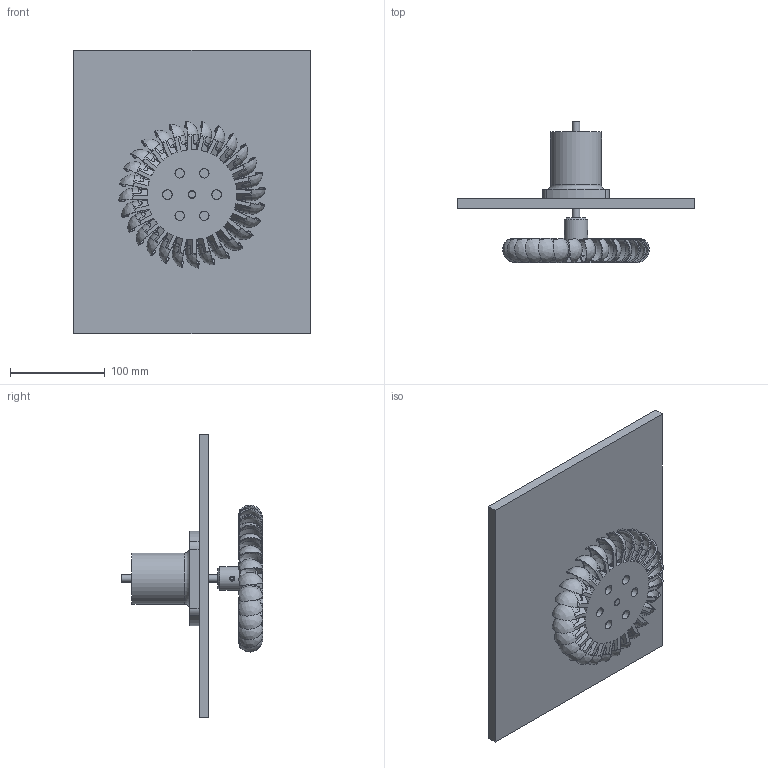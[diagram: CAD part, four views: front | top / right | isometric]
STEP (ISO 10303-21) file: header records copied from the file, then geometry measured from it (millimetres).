
FILE_DESCRIPTION(/* description */ (''),/* implementation_level */ '2;1');
FILE_NAME(/* name */ 'Assieme_turgo_small1.stp',/* time_stamp */ '2025-05-04T17:53:36+02:00',/* author */ ('R5800u'),/* organization */ (''),/* preprocessor_version */ 'ST-DEVELOPER v20',/* originating_system */ 'Autodesk Inventor 2025',/* authorisation */ '');
FILE_SCHEMA (('AUTOMOTIVE_DESIGN { 1 0 10303 214 3 1 1 }'));
Products named in the file (10): Assieme_turgo_small1; turgo_small2; albero_8mm; %3% BS 290 - SKF 608; giunto02; blocco_albero; anello_22x2; blocco_per_vite_m3; tavolo; AS 1420 - 1973 - M3 x 14
Assembly tree (13 placements, depth 2):
  Assieme_turgo_small1
    turgo_small2
    albero_8mm
    %3% BS 290 - SKF 608  x2
    blocco_per_vite_m3  x3
    giunto02
    blocco_albero
    anello_22x2
    tavolo
    AS 1420 - 1973 - M3 x 14  x2
Bounding box: 250 x 150.04 x 300 mm (x, y, z)
Volume: 1051216 mm3; surface area: 302202.1 mm2
Topology: 13 solids, 13 shells, 959 faces, 2674 edges, 1732 vertices
Faces by surface type: plane 363, cylinder 267, bspline 232, torus 67, cone 18, sphere 12
Full cylindrical faces by diameter (mm): 3 x2, 3.2 x7, 4.562 x3, 5.2 x2, 5.4 x6, 5.5 x8, 8 x3, 8.1 x1, 9 x1, 10 x10, 12.48 x4, 17 x1, 17.52 x4, 18.9 x1, 22 x3, 22.1 x1, 25 x1, 32 x1, 38 x3, 54 x1
Entity records: 42826 total; most frequent: CARTESIAN_POINT 21939, ORIENTED_EDGE 4962, DIRECTION 3308, EDGE_CURVE 2481, VERTEX_POINT 1612, AXIS2_PLACEMENT_3D 1305, B_SPLINE_CURVE_WITH_KNOTS 1151, EDGE_LOOP 961
